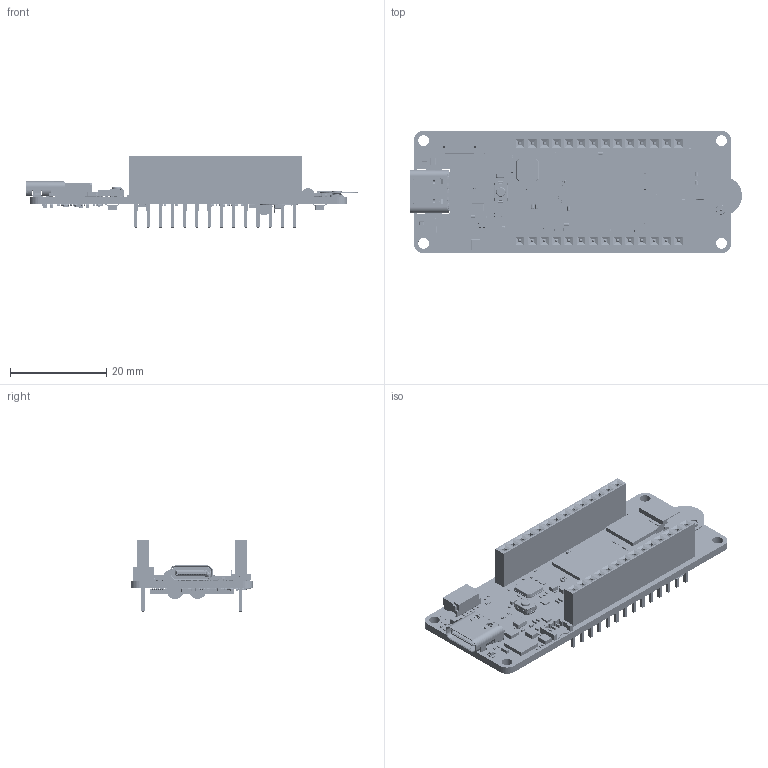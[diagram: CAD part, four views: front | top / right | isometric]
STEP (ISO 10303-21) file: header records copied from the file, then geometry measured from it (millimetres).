
FILE_DESCRIPTION(('Open CASCADE Model'),'2;1');
FILE_NAME('Open CASCADE Shape Model','2022-10-06T10:09:30',('Author'),( 'Open CASCADE'),'Open CASCADE STEP processor 7.5','Open CASCADE 7.5' ,'Unknown');
FILE_SCHEMA(('AUTOMOTIVE_DESIGN { 1 0 10303 214 1 1 1 1 }'));
Products named in the file (1): PCB
Bounding box: 69.08 x 25.4 x 15.04 mm (x, y, z)
Volume: 3098.6 mm3; surface area: 11968.4 mm2
Topology: 135 solids, 8339 shells, 18533 faces, 67336 edges, 55664 vertices
Faces by surface type: plane 10059, cylinder 5491, sphere 1486, bspline 1319, torus 85, cone 72, extrusion 19, revolution 2
Full cylindrical faces by diameter (mm): 0.07 x1, 0.235 x1, 0.25 x1, 0.4 x2, 0.512 x1, 0.6 x2, 0.8 x3, 1.04 x14, 1.06 x14, 2 x1, 2.05 x1, 2.25 x4, 2.5 x1
Entity records: 809433 total; most frequent: CARTESIAN_POINT 194273, DIRECTION 112381, ORIENTED_EDGE 87483, EDGE_CURVE 65658, VERTEX_POINT 55591, VECTOR 46933, LINE 46914, AXIS2_PLACEMENT_3D 32723
